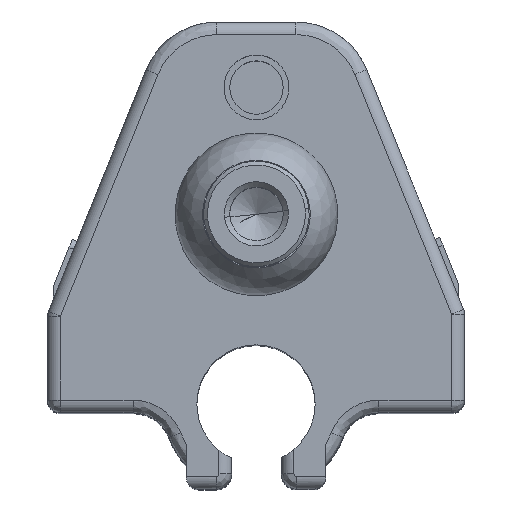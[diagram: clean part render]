
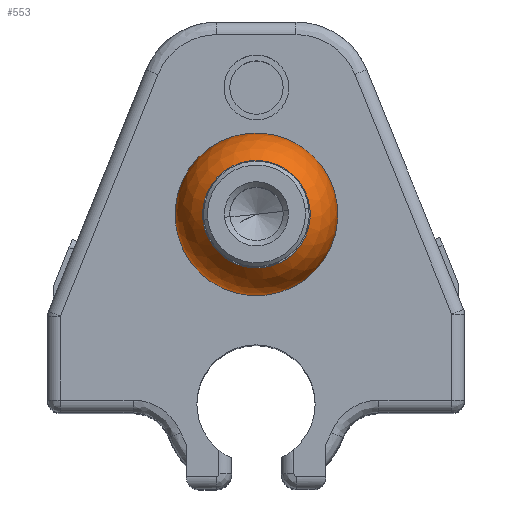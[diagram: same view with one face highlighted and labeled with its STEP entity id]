
A CAD part, top view. The second image highlights one B-rep face of the part: STEP entity #553.
In plain terms, the highlighted spherical face has radius 6.4 mm.
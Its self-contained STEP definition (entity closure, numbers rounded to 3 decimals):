
#197 = SPHERICAL_SURFACE ( 'NONE', #1625, 6.4 ) ;
#307 = ORIENTED_EDGE ( 'NONE', *, *, #2194, .F. ) ;
#409 = AXIS2_PLACEMENT_3D ( 'NONE', #5429, #1179, #3073 ) ;
#474 = EDGE_CURVE ( 'NONE', #1771, #3471, #2125, .T. ) ;
#553 = ADVANCED_FACE ( 'NONE', ( #5840, #3487 ), #197, .T. ) ;
#770 = VERTEX_POINT ( 'NONE', #4073 ) ;
#1038 = DIRECTION ( 'NONE',  ( -0.994, -0.105, 0. ) ) ;
#1179 = DIRECTION ( 'NONE',  ( 0., 0., 1. ) ) ;
#1439 = CARTESIAN_POINT ( 'NONE',  ( -15.4, 5.25, 13.927 ) ) ;
#1505 = EDGE_LOOP ( 'NONE', ( #307, #1638 ) ) ;
#1511 = DIRECTION ( 'NONE',  ( 0., 0., 1. ) ) ;
#1625 = AXIS2_PLACEMENT_3D ( 'NONE', #2035, #2489, #1038 ) ;
#1638 = ORIENTED_EDGE ( 'NONE', *, *, #474, .F. ) ;
#1771 = VERTEX_POINT ( 'NONE', #4547 ) ;
#2035 = CARTESIAN_POINT ( 'NONE',  ( -15.4, 5.25, 9.127 ) ) ;
#2071 = ORIENTED_EDGE ( 'NONE', *, *, #2909, .T. ) ;
#2125 = CIRCLE ( 'NONE', #5899, 4.233 ) ;
#2140 = EDGE_CURVE ( 'NONE', #770, #2168, #4389, .T. ) ;
#2168 = VERTEX_POINT ( 'NONE', #4375 ) ;
#2194 = EDGE_CURVE ( 'NONE', #3471, #1771, #4586, .T. ) ;
#2362 = DIRECTION ( 'NONE',  ( 0., 0., 1. ) ) ;
#2489 = DIRECTION ( 'NONE',  ( 0., 0., -1. ) ) ;
#2531 = CARTESIAN_POINT ( 'NONE',  ( -11.19, 5.694, 13.927 ) ) ;
#2562 = DIRECTION ( 'NONE',  ( 0., 1., 0. ) ) ;
#2835 = DIRECTION ( 'NONE',  ( 0.994, 0.105, 0. ) ) ;
#2909 = EDGE_CURVE ( 'NONE', #770, #2168, #4682, .T. ) ;
#3073 = DIRECTION ( 'NONE',  ( 0., -1., 0. ) ) ;
#3443 = CARTESIAN_POINT ( 'NONE',  ( -15.4, 5.25, 9.127 ) ) ;
#3471 = VERTEX_POINT ( 'NONE', #2531 ) ;
#3487 = FACE_BOUND ( 'NONE', #1505, .T. ) ;
#3978 = EDGE_LOOP ( 'NONE', ( #5324, #2071 ) ) ;
#4073 = CARTESIAN_POINT ( 'NONE',  ( -16.071, 11.615, 9.127 ) ) ;
#4375 = CARTESIAN_POINT ( 'NONE',  ( -14.729, -1.115, 9.127 ) ) ;
#4389 = CIRCLE ( 'NONE', #6052, 6.4 ) ;
#4413 = DIRECTION ( 'NONE',  ( 0.994, 0.105, 0. ) ) ;
#4547 = CARTESIAN_POINT ( 'NONE',  ( -19.61, 4.806, 13.927 ) ) ;
#4586 = CIRCLE ( 'NONE', #5863, 4.233 ) ;
#4682 = CIRCLE ( 'NONE', #409, 6.4 ) ;
#5324 = ORIENTED_EDGE ( 'NONE', *, *, #2140, .F. ) ;
#5425 = CARTESIAN_POINT ( 'NONE',  ( -15.4, 5.25, 13.927 ) ) ;
#5429 = CARTESIAN_POINT ( 'NONE',  ( -15.4, 5.25, 9.127 ) ) ;
#5796 = DIRECTION ( 'NONE',  ( 0., 0., -1. ) ) ;
#5840 = FACE_OUTER_BOUND ( 'NONE', #3978, .T. ) ;
#5863 = AXIS2_PLACEMENT_3D ( 'NONE', #5425, #1511, #4413 ) ;
#5899 = AXIS2_PLACEMENT_3D ( 'NONE', #1439, #2362, #2835 ) ;
#6052 = AXIS2_PLACEMENT_3D ( 'NONE', #3443, #5796, #2562 ) ;
